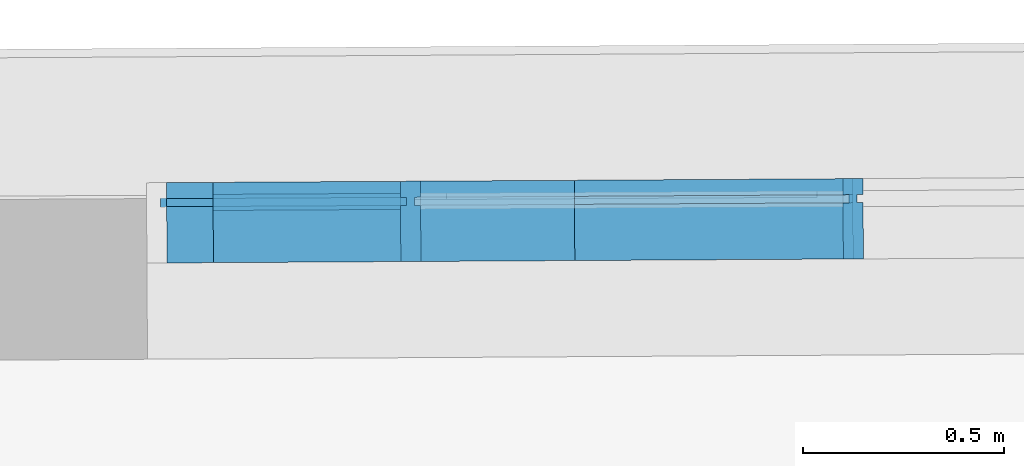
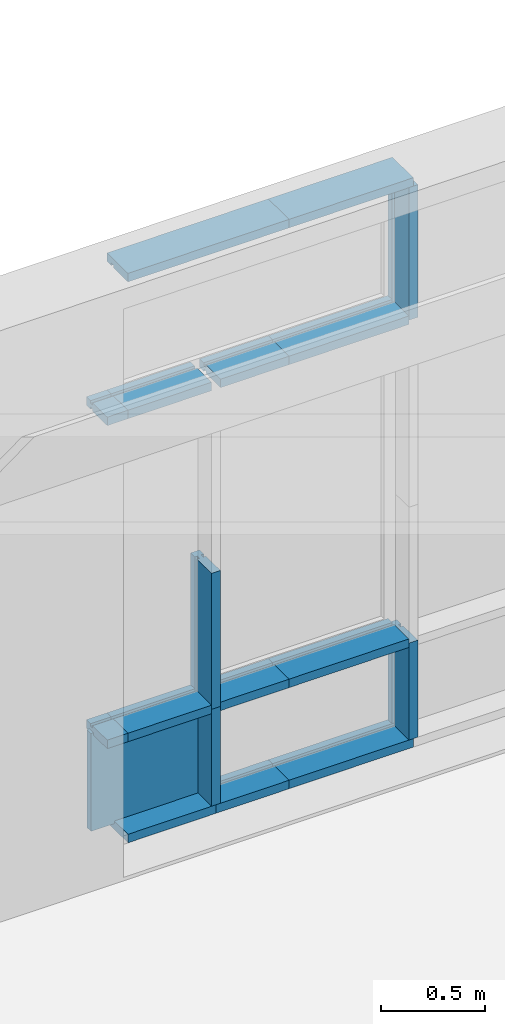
# One storey, part 127 of 158: 18 building element parts, 1 element without a shape of its own.
"""IFC2X3 building model written with IfcOpenShell, lengths in metres."""

from ifc_helpers import new_model, entity, si_unit, converted_unit, derived_unit, money_unit, direction, frame, origin_with_axes, place, context, subcontext, project, spatial, faceted_brep, material, type_object, element, aggregate, save


model = new_model("IFC2X3")

# Units and contexts
model_context = context("Model", 3, precision=1e-05, world=origin_with_axes(), true_north=direction((0.0, 1.0)))
body_context = subcontext(model_context, "Body", "Model", "MODEL_VIEW")
ifc_project = project(units=[si_unit("LENGTHUNIT", "METRE"), si_unit("AREAUNIT", "SQUARE_METRE"), si_unit("VOLUMEUNIT", "CUBIC_METRE"), converted_unit("PLANEANGLEUNIT", "DEGREE", entity("IfcPlaneAngleMeasure", 0.0174532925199), si_unit("PLANEANGLEUNIT", "RADIAN"), dimensions=[0, 0, 0, 0, 0, 0, 0]), money_unit("EUR"), converted_unit("TIMEUNIT", "Year", entity("IfcTimeMeasure", 31556926.0), si_unit("TIMEUNIT", "SECOND"), dimensions=[0, 0, 1, 0, 0, 0, 0]), si_unit("MASSUNIT", "GRAM", prefix="KILO"), si_unit("THERMODYNAMICTEMPERATUREUNIT", "DEGREE_CELSIUS"), si_unit("LUMINOUSINTENSITYUNIT", "LUMEN"), si_unit("ENERGYUNIT", "JOULE", prefix="MEGA"), derived_unit("THERMALCONDUCTANCEUNIT", [(si_unit("POWERUNIT", "WATT"), 1), (si_unit("LENGTHUNIT", "METRE"), -1), (si_unit("THERMODYNAMICTEMPERATUREUNIT", "KELVIN"), -1)]), derived_unit("SPECIFICHEATCAPACITYUNIT", [(si_unit("ENERGYUNIT", "JOULE"), 1), (si_unit("MASSUNIT", "GRAM", prefix="KILO"), -1), (si_unit("THERMODYNAMICTEMPERATUREUNIT", "KELVIN"), -1)]), derived_unit("MASSDENSITYUNIT", [(si_unit("MASSUNIT", "GRAM", prefix="KILO"), 1), (si_unit("VOLUMEUNIT", "CUBIC_METRE"), -1)])], contexts=[model_context])

# Site, building, storey
site_placement = place(None, origin_with_axes())
site = spatial("IfcSite", under=ifc_project, at=site_placement, Name="Gelände", CompositionType="ELEMENT")
building_placement = place(site_placement, origin_with_axes())
building = spatial("IfcBuilding", under=site, at=building_placement, Name="Gebäude", CompositionType="ELEMENT")
storey_placement = place(building_placement, origin_with_axes())
storey = spatial("IfcBuildingStorey", under=building, at=storey_placement, Name="ERDGESCHOSS", CompositionType="ELEMENT", Elevation=0.0)

# Proxy, building element parts
building_element_proxy_type = type_object("IfcBuildingElementProxyType", Name="Fassadentyp", PredefinedType="NOTDEFINED")
proxy_placement = place(storey_placement, frame((-29.8344261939, 53.9291673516, 1.34043902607), z_axis=(0.0, 0.0, 1.0), x_axis=(1.0, 0.0, 0.0)))
proxy = element("IfcBuildingElementProxy", 1, at=proxy_placement, inside=storey, type_object=building_element_proxy_type, Name="Fassade-002")
ifc_material_1 = material(Name="45_Glas, Normalglas")
building_element_part_1_placement = place(proxy_placement, origin_with_axes())
building_element_part_1 = element("IfcBuildingElementPart", 2, at=building_element_part_1_placement, material=ifc_material_1, Name="45_Glas, Normalglas", context=body_context, shape_type="Brep", body=[
    faceted_brep([(-0.702538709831, -0.0240973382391, 0.610000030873), (-0.571863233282, -0.0233352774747, 0.610000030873), (-0.572096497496, 0.0166640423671, 0.610000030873), (-0.702771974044, 0.0159019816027, 0.610000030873), (-0.702538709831, -0.0240973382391, 0.0349999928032), (-0.571863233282, -0.0233352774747, 0.0349999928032), (-0.09013150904, -0.0205259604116, 0.0349999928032), (-0.09013150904, -0.0205259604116, 0.610000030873), (-0.0903647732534, 0.0194733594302, 0.610000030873), (-0.0903647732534, 0.0194733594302, 0.0349999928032), (-0.572096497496, 0.0166640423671, 0.0349999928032), (-0.702771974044, 0.0159019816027, 0.0349999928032)], [[[0, 1, 2, 3]], [[0, 4, 5, 6, 7, 1]], [[1, 7, 8, 2]], [[3, 2, 8, 9, 10, 11]], [[4, 0, 3, 11]], [[5, 4, 11, 10]], [[6, 5, 10, 9]], [[7, 6, 9, 8]]]),
])
ifc_material_2 = material(Name="53_Metall, Aluminium")
building_element_part_2_placement = place(proxy_placement, origin_with_axes())
building_element_part_2 = element("IfcBuildingElementPart", 3, at=building_element_part_2_placement, material=ifc_material_2, Name="53_Metall, Aluminium", context=body_context, shape_type="Brep", body=[
    faceted_brep([(-0.68759727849, -0.0140100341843, 2.51000003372), (-0.68759727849, -0.0140100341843, 2.49500003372), (-0.686780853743, -0.154007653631, 2.49500003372), (-0.686780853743, -0.154007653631, 2.54500003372), (-0.68759727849, -0.0140100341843, 2.54500003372), (-0.68759727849, -0.0140100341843, 2.53000003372), (-0.687713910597, 0.00598962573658, 2.53000003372), (-0.687713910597, 0.00598962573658, 2.54500003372), (-0.687947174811, 0.0459889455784, 2.54500003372), (-0.687947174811, 0.0459889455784, 2.49500003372), (-0.687713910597, 0.00598962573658, 2.49500003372), (-0.687713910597, 0.00598962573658, 2.51000003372), (-0.571921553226, -0.013335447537, 2.51000003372), (-0.571921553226, -0.013335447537, 2.49500003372), (-0.571105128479, -0.153333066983, 2.49500003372), (-0.571105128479, -0.153333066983, 2.54500003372), (-0.571921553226, -0.013335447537, 2.54500003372), (-0.571921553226, -0.013335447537, 2.53000003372), (-0.572038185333, 0.00666421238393, 2.53000003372), (-0.572038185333, 0.00666421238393, 2.54500003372), (-0.572271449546, 0.0466635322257, 2.54500003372), (-0.572271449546, 0.0466635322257, 2.49500003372), (-0.572038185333, 0.00666421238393, 2.49500003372), (-0.572038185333, 0.00666421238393, 2.51000003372)], [[[0, 1, 2, 3, 4, 5, 6, 7, 8, 9, 10, 11]], [[1, 0, 12, 13]], [[1, 13, 14, 2]], [[3, 2, 14, 15]], [[4, 3, 15, 16]], [[4, 16, 17, 5]], [[5, 17, 18, 6]], [[7, 6, 18, 19]], [[19, 20, 8, 7]], [[9, 8, 20, 21]], [[22, 10, 9, 21]], [[11, 10, 22, 23]], [[0, 11, 23, 12]], [[23, 22, 21, 20, 19, 18, 17, 16, 15, 14, 13, 12]]]),
])
building_element_part_3_placement = place(proxy_placement, origin_with_axes())
building_element_part_3 = element("IfcBuildingElementPart", 4, at=building_element_part_3_placement, material=ifc_material_2, Name="53_Metall, Aluminium", context=body_context, shape_type="Brep", body=[
    faceted_brep([(-0.571921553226, -0.013335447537, 2.51000003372), (-0.571921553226, -0.013335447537, 2.49500003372), (-0.571105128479, -0.153333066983, 2.49500003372), (-0.571105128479, -0.153333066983, 2.54500003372), (-0.571921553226, -0.013335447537, 2.54500003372), (-0.571921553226, -0.013335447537, 2.53000003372), (-0.572038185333, 0.00666421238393, 2.53000003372), (-0.572038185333, 0.00666421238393, 2.54500003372), (-0.572271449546, 0.0466635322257, 2.54500003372), (-0.572271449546, 0.0466635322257, 2.49500003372), (-0.572038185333, 0.00666421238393, 2.49500003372), (-0.572038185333, 0.00666421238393, 2.51000003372), (-0.105189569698, -0.0106136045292, 2.51000003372), (-0.105189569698, -0.0106136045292, 2.49500003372), (-0.104373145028, -0.150611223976, 2.49500003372), (-0.104373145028, -0.150611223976, 2.54500003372), (-0.105189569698, -0.0106136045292, 2.54500003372), (-0.105189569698, -0.0106136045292, 2.53000003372), (-0.105306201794, 0.00938605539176, 2.53000003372), (-0.105306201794, 0.00938605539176, 2.54500003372), (-0.105539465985, 0.0493853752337, 2.54500003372), (-0.105539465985, 0.0493853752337, 2.49500003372), (-0.105306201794, 0.00938605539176, 2.49500003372), (-0.105306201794, 0.00938605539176, 2.51000003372)], [[[0, 1, 2, 3, 4, 5, 6, 7, 8, 9, 10, 11]], [[1, 0, 12, 13]], [[1, 13, 14, 2]], [[2, 14, 15, 3]], [[4, 3, 15, 16]], [[4, 16, 17, 5]], [[5, 17, 18, 6]], [[7, 6, 18, 19]], [[19, 20, 8, 7]], [[8, 20, 21, 9]], [[22, 10, 9, 21]], [[11, 10, 22, 23]], [[0, 11, 23, 12]], [[23, 22, 21, 20, 19, 18, 17, 16, 15, 14, 13, 12]]]),
])
building_element_part_4_placement = place(proxy_placement, origin_with_axes())
building_element_part_4 = element("IfcBuildingElementPart", 5, at=building_element_part_4_placement, material=ifc_material_2, Name="53_Metall, Aluminium", context=body_context, shape_type="Brep", body=[
    faceted_brep([(-0.571921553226, -0.013335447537, 0.0349999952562), (-0.572038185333, 0.00666421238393, 0.0349999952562), (-0.572038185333, 0.00666421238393, 0.0499999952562), (-0.572271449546, 0.0466635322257, 0.0499999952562), (-0.572271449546, 0.0466635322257, -4.74376693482e-09), (-0.571105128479, -0.153333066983, -4.74376693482e-09), (-0.571105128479, -0.153333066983, 0.0499999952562), (-0.571921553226, -0.013335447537, 0.0499999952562), (-0.0801899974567, -0.0104678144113, 0.0349999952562), (-0.0803066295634, 0.00953184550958, 0.0349999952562), (-0.0803066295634, 0.00953184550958, 0.0499999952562), (-0.0805398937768, 0.0495311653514, 0.0499999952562), (-0.0805398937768, 0.0495311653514, -4.74376693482e-09), (-0.0793735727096, -0.150465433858, -4.74376693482e-09), (-0.0793735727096, -0.150465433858, 0.0499999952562), (-0.0801899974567, -0.0104678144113, 0.0499999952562)], [[[0, 1, 2, 3, 4, 5, 6, 7]], [[1, 0, 8, 9]], [[10, 2, 1, 9]], [[2, 10, 11, 3]], [[12, 4, 3, 11]], [[13, 5, 4, 12]], [[14, 6, 5, 13]], [[15, 7, 6, 14]], [[0, 7, 15, 8]], [[8, 15, 14, 13, 12, 11, 10, 9]]]),
])
building_element_part_5_placement = place(proxy_placement, origin_with_axes())
building_element_part_5 = element("IfcBuildingElementPart", 6, at=building_element_part_5_placement, material=ifc_material_2, Name="53_Metall, Aluminium", context=body_context, shape_type="Brep", body=[
    faceted_brep([(-0.0801899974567, -0.0104678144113, 0.0349999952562), (-0.0803066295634, 0.00953184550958, 0.0349999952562), (-0.0803066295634, 0.00953184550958, 0.0499999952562), (-0.0805398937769, 0.0495311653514, 0.0499999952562), (-0.0805398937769, 0.0495311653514, -4.74376693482e-09), (-0.0793735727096, -0.150465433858, -4.74376693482e-09), (-0.0793735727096, -0.150465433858, 0.0499999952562), (-0.0801899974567, -0.0104678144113, 0.0499999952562), (0.328063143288, -0.00808700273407, 0.0349999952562), (0.327946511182, 0.0119126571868, 0.0349999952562), (0.327946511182, 0.0119126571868, 0.0499999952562), (0.327713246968, 0.0519119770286, 0.0499999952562), (0.327713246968, 0.0519119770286, -4.74376693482e-09), (0.328879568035, -0.14808462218, -4.74376693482e-09), (0.328879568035, -0.14808462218, 0.0499999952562), (0.328063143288, -0.00808700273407, 0.0499999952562)], [[[0, 1, 2, 3, 4, 5, 6, 7]], [[1, 0, 8, 9]], [[10, 2, 1, 9]], [[2, 10, 11, 3]], [[12, 4, 3, 11]], [[13, 5, 4, 12]], [[14, 6, 5, 13]], [[15, 7, 6, 14]], [[0, 7, 15, 8]], [[8, 15, 14, 13, 12, 11, 10, 9]]]),
])
building_element_part_6_placement = place(proxy_placement, origin_with_axes())
building_element_part_6 = element("IfcBuildingElementPart", 7, at=building_element_part_6_placement, material=ifc_material_2, Name="53_Metall, Aluminium", context=body_context, shape_type="Brep", body=[
    faceted_brep([(0.328063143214, -0.0080870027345, 0.610000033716), (0.328063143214, -0.0080870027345, 0.595000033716), (0.328879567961, -0.148084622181, 0.595000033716), (0.328879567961, -0.148084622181, 0.645000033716), (0.328063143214, -0.0080870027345, 0.645000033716), (0.328063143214, -0.0080870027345, 0.630000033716), (0.327946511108, 0.0119126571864, 0.630000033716), (0.327946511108, 0.0119126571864, 0.645000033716), (0.327713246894, 0.0519119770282, 0.645000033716), (0.327713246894, 0.0519119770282, 0.595000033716), (0.327946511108, 0.0119126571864, 0.595000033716), (0.327946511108, 0.0119126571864, 0.610000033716), (0.996812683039, -0.00418705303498, 0.610000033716), (0.996812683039, -0.00418705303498, 0.595000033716), (0.997629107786, -0.144184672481, 0.595000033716), (0.997629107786, -0.144184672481, 0.645000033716), (0.996812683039, -0.00418705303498, 0.645000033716), (0.996812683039, -0.00418705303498, 0.630000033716), (0.996696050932, 0.0158126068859, 0.630000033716), (0.996696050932, 0.0158126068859, 0.645000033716), (0.996462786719, 0.0558119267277, 0.645000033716), (0.996462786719, 0.0558119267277, 0.595000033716), (0.996696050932, 0.0158126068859, 0.595000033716), (0.996696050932, 0.0158126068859, 0.610000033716)], [[[0, 1, 2, 3, 4, 5, 6, 7, 8, 9, 10, 11]], [[1, 0, 12, 13]], [[1, 13, 14, 2]], [[2, 14, 15, 3]], [[4, 3, 15, 16]], [[4, 16, 17, 5]], [[5, 17, 18, 6]], [[7, 6, 18, 19]], [[19, 20, 8, 7]], [[8, 20, 21, 9]], [[22, 10, 9, 21]], [[11, 10, 22, 23]], [[0, 11, 23, 12]], [[23, 22, 21, 20, 19, 18, 17, 16, 15, 14, 13, 12]]]),
])
building_element_part_7_placement = place(proxy_placement, origin_with_axes())
building_element_part_7 = element("IfcBuildingElementPart", 8, at=building_element_part_7_placement, material=ifc_material_2, Name="53_Metall, Aluminium", context=body_context, shape_type="Brep", body=[
    faceted_brep([(-0.571921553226, -0.013335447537, 3.31499994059), (-0.571921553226, -0.013335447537, 3.29999994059), (-0.571105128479, -0.153333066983, 3.29999994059), (-0.571105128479, -0.153333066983, 3.34999994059), (-0.572271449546, 0.0466635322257, 3.34999994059), (-0.572271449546, 0.0466635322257, 3.29999994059), (-0.572038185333, 0.00666421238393, 3.29999994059), (-0.572038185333, 0.00666421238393, 3.31499994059), (0.328063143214, -0.0080870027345, 3.31499994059), (0.328063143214, -0.0080870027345, 3.29999994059), (0.328879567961, -0.148084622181, 3.29999994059), (0.328879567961, -0.148084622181, 3.34999994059), (0.327713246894, 0.0519119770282, 3.34999994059), (0.327713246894, 0.0519119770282, 3.29999994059), (0.327946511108, 0.0119126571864, 3.29999994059), (0.327946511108, 0.0119126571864, 3.31499994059)], [[[0, 1, 2, 3, 4, 5, 6, 7]], [[0, 8, 9, 1]], [[9, 10, 2, 1]], [[10, 11, 3, 2]], [[11, 12, 4, 3]], [[12, 13, 5, 4]], [[6, 5, 13, 14]], [[14, 15, 7, 6]], [[7, 15, 8, 0]], [[8, 15, 14, 13, 12, 11, 10, 9]]]),
])
building_element_part_8_placement = place(proxy_placement, origin_with_axes())
building_element_part_8 = element("IfcBuildingElementPart", 9, at=building_element_part_8_placement, material=ifc_material_2, Name="53_Metall, Aluminium", context=body_context, shape_type="Brep", body=[
    faceted_brep([(-0.571921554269, -0.013335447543, 0.610000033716), (-0.571921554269, -0.013335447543, 0.595000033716), (-0.571105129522, -0.153333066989, 0.595000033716), (-0.571105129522, -0.153333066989, 0.645000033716), (-0.571921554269, -0.013335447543, 0.645000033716), (-0.571921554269, -0.013335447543, 0.630000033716), (-0.572038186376, 0.00666421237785, 0.630000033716), (-0.572038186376, 0.00666421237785, 0.645000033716), (-0.572271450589, 0.0466635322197, 0.645000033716), (-0.572271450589, 0.0466635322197, 0.595000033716), (-0.572038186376, 0.00666421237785, 0.595000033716), (-0.572038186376, 0.00666421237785, 0.610000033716), (-0.10518957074, -0.0106136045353, 0.610000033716), (-0.10518957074, -0.0106136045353, 0.595000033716), (-0.10437314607, -0.150611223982, 0.595000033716), (-0.10437314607, -0.150611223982, 0.645000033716), (-0.10518957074, -0.0106136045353, 0.645000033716), (-0.10518957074, -0.0106136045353, 0.630000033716), (-0.105306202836, 0.00938605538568, 0.630000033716), (-0.105306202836, 0.00938605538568, 0.645000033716), (-0.105539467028, 0.0493853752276, 0.645000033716), (-0.105539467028, 0.0493853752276, 0.595000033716), (-0.105306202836, 0.00938605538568, 0.595000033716), (-0.105306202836, 0.00938605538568, 0.610000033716)], [[[0, 1, 2, 3, 4, 5, 6, 7, 8, 9, 10, 11]], [[1, 0, 12, 13]], [[1, 13, 14, 2]], [[2, 14, 15, 3]], [[4, 3, 15, 16]], [[4, 16, 17, 5]], [[5, 17, 18, 6]], [[7, 6, 18, 19]], [[19, 20, 8, 7]], [[8, 20, 21, 9]], [[22, 10, 9, 21]], [[11, 10, 22, 23]], [[0, 11, 23, 12]], [[23, 22, 21, 20, 19, 18, 17, 16, 15, 14, 13, 12]]]),
])
building_element_part_9_placement = place(proxy_placement, origin_with_axes())
building_element_part_9 = element("IfcBuildingElementPart", 10, at=building_element_part_9_placement, material=ifc_material_2, Name="53_Metall, Aluminium", context=body_context, shape_type="Brep", body=[
    faceted_brep([(-0.0901898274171, -0.0105261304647, 0.620000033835), (-0.105189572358, -0.0106136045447, 0.620000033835), (-0.104373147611, -0.150611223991, 0.620000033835), (-0.0543739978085, -0.150319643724, 0.620000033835), (-0.0551904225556, -0.0103220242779, 0.620000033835), (-0.0701901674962, -0.010409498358, 0.620000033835), (-0.070306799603, 0.00959016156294, 0.620000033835), (-0.0553070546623, 0.00967763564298, 0.620000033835), (-0.0555403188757, 0.0496769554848, 0.620000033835), (-0.105539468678, 0.049385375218, 0.620000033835), (-0.105306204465, 0.00938605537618, 0.620000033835), (-0.0903064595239, 0.00947352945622, 0.620000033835), (-0.0901898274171, -0.0105261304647, 0.0499999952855), (-0.105189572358, -0.0106136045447, 0.0499999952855), (-0.104373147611, -0.150611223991, 0.0499999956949), (-0.0543739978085, -0.150319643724, 0.0499999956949), (-0.0551904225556, -0.0103220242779, 0.0499999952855), (-0.0701901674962, -0.010409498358, 0.0499999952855), (-0.070306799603, 0.00959016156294, 0.049999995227), (-0.0553070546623, 0.00967763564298, 0.049999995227), (-0.0555403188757, 0.0496769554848, 0.04999999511), (-0.105539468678, 0.049385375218, 0.04999999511), (-0.105306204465, 0.00938605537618, 0.049999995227), (-0.0903064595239, 0.00947352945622, 0.049999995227)], [[[0, 1, 2, 3, 4, 5, 6, 7, 8, 9, 10, 11]], [[1, 0, 12, 13]], [[1, 13, 14, 2]], [[2, 14, 15, 3]], [[4, 3, 15, 16]], [[4, 16, 17, 5]], [[5, 17, 18, 6]], [[7, 6, 18, 19]], [[19, 20, 8, 7]], [[8, 20, 21, 9]], [[22, 10, 9, 21]], [[11, 10, 22, 23]], [[0, 11, 23, 12]], [[23, 22, 21, 20, 19, 18, 17, 16, 15, 14, 13, 12]]]),
])
building_element_part_10_placement = place(proxy_placement, origin_with_axes())
building_element_part_10 = element("IfcBuildingElementPart", 11, at=building_element_part_10_placement, material=ifc_material_2, Name="53_Metall, Aluminium", context=body_context, shape_type="Brep", body=[
    faceted_brep([(-0.68759727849, -0.0140100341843, 0.610000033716), (-0.68759727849, -0.0140100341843, 0.595000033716), (-0.686780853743, -0.154007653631, 0.595000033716), (-0.686780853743, -0.154007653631, 0.645000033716), (-0.68759727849, -0.0140100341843, 0.645000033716), (-0.68759727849, -0.0140100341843, 0.630000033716), (-0.687713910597, 0.00598962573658, 0.630000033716), (-0.687713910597, 0.00598962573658, 0.645000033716), (-0.687947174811, 0.0459889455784, 0.645000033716), (-0.687947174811, 0.0459889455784, 0.595000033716), (-0.687713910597, 0.00598962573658, 0.595000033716), (-0.687713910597, 0.00598962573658, 0.610000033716), (-0.571921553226, -0.013335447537, 0.610000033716), (-0.571921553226, -0.013335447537, 0.595000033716), (-0.571105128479, -0.153333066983, 0.595000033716), (-0.571105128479, -0.153333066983, 0.645000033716), (-0.571921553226, -0.013335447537, 0.645000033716), (-0.571921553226, -0.013335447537, 0.630000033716), (-0.572038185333, 0.00666421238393, 0.630000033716), (-0.572038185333, 0.00666421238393, 0.645000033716), (-0.572271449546, 0.0466635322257, 0.645000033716), (-0.572271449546, 0.0466635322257, 0.595000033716), (-0.572038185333, 0.00666421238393, 0.595000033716), (-0.572038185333, 0.00666421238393, 0.610000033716)], [[[0, 1, 2, 3, 4, 5, 6, 7, 8, 9, 10, 11]], [[1, 0, 12, 13]], [[1, 13, 14, 2]], [[3, 2, 14, 15]], [[4, 3, 15, 16]], [[4, 16, 17, 5]], [[5, 17, 18, 6]], [[7, 6, 18, 19]], [[19, 20, 8, 7]], [[9, 8, 20, 21]], [[22, 10, 9, 21]], [[11, 10, 22, 23]], [[0, 11, 23, 12]], [[23, 22, 21, 20, 19, 18, 17, 16, 15, 14, 13, 12]]]),
])
building_element_part_11_placement = place(proxy_placement, origin_with_axes())
building_element_part_11 = element("IfcBuildingElementPart", 12, at=building_element_part_11_placement, material=ifc_material_2, Name="53_Metall, Aluminium", context=body_context, shape_type="Brep", body=[
    faceted_brep([(-0.0901898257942, -0.0105261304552, 1.42000003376), (-0.105189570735, -0.0106136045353, 1.42000003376), (-0.104373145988, -0.150611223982, 1.42000003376), (-0.0543739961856, -0.150319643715, 1.42000003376), (-0.0551904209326, -0.0103220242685, 1.42000003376), (-0.0701901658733, -0.0104094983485, 1.42000003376), (-0.07030679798, 0.0095901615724, 1.42000003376), (-0.0553070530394, 0.00967763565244, 1.42000003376), (-0.0555403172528, 0.0496769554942, 1.42000003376), (-0.105539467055, 0.0493853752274, 1.42000003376), (-0.105306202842, 0.00938605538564, 1.42000003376), (-0.0903064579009, 0.00947352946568, 1.42000003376), (-0.0901898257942, -0.0105261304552, 0.620000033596), (-0.105189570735, -0.0106136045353, 0.620000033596), (-0.104373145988, -0.150611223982, 0.620000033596), (-0.0543739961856, -0.150319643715, 0.620000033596), (-0.0551904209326, -0.0103220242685, 0.620000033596), (-0.0701901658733, -0.0104094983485, 0.620000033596), (-0.07030679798, 0.0095901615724, 0.620000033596), (-0.0553070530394, 0.00967763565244, 0.620000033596), (-0.0555403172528, 0.0496769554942, 0.620000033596), (-0.105539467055, 0.0493853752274, 0.620000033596), (-0.105306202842, 0.00938605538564, 0.620000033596), (-0.0903064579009, 0.00947352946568, 0.620000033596)], [[[0, 1, 2, 3, 4, 5, 6, 7, 8, 9, 10, 11]], [[1, 0, 12, 13]], [[1, 13, 14, 2]], [[3, 2, 14, 15]], [[4, 3, 15, 16]], [[4, 16, 17, 5]], [[5, 17, 18, 6]], [[7, 6, 18, 19]], [[19, 20, 8, 7]], [[9, 8, 20, 21]], [[22, 10, 9, 21]], [[11, 10, 22, 23]], [[0, 11, 23, 12]], [[23, 22, 21, 20, 19, 18, 17, 16, 15, 14, 13, 12]]]),
])
building_element_part_12_placement = place(proxy_placement, origin_with_axes())
building_element_part_12 = element("IfcBuildingElementPart", 13, at=building_element_part_12_placement, material=ifc_material_2, Name="53_Metall, Aluminium", context=body_context, shape_type="Brep", body=[
    faceted_brep([(-0.0551904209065, -0.0103220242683, 0.610000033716), (-0.0551904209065, -0.0103220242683, 0.595000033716), (-0.0543739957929, -0.150319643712, 0.595000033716), (-0.0543739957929, -0.150319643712, 0.645000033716), (-0.0551904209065, -0.0103220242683, 0.645000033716), (-0.0551904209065, -0.0103220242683, 0.630000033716), (-0.0553070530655, 0.0096776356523, 0.630000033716), (-0.0553070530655, 0.0096776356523, 0.645000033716), (-0.0555403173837, 0.0496769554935, 0.645000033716), (-0.0555403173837, 0.0496769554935, 0.595000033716), (-0.0553070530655, 0.0096776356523, 0.595000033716), (-0.0553070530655, 0.0096776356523, 0.610000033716), (0.328063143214, -0.0080870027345, 0.610000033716), (0.328063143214, -0.0080870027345, 0.595000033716), (0.328879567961, -0.148084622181, 0.595000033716), (0.328879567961, -0.148084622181, 0.645000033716), (0.328063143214, -0.0080870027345, 0.645000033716), (0.328063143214, -0.0080870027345, 0.630000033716), (0.327946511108, 0.0119126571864, 0.630000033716), (0.327946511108, 0.0119126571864, 0.645000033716), (0.327713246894, 0.0519119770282, 0.645000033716), (0.327713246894, 0.0519119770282, 0.595000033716), (0.327946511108, 0.0119126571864, 0.595000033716), (0.327946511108, 0.0119126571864, 0.610000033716)], [[[0, 1, 2, 3, 4, 5, 6, 7, 8, 9, 10, 11]], [[1, 0, 12, 13]], [[1, 13, 14, 2]], [[3, 2, 14, 15]], [[4, 3, 15, 16]], [[4, 16, 17, 5]], [[5, 17, 18, 6]], [[7, 6, 18, 19]], [[19, 20, 8, 7]], [[9, 8, 20, 21]], [[22, 10, 9, 21]], [[11, 10, 22, 23]], [[0, 11, 23, 12]], [[23, 22, 21, 20, 19, 18, 17, 16, 15, 14, 13, 12]]]),
])
building_element_part_13_placement = place(proxy_placement, origin_with_axes())
building_element_part_13 = element("IfcBuildingElementPart", 14, at=building_element_part_13_placement, material=ifc_material_2, Name="53_Metall, Aluminium", context=body_context, shape_type="Brep", body=[
    faceted_brep([(-0.0551904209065, -0.0103220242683, 2.51000003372), (-0.0551904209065, -0.0103220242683, 2.49500003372), (-0.0543739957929, -0.150319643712, 2.49500003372), (-0.0543739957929, -0.150319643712, 2.54500003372), (-0.0551904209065, -0.0103220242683, 2.54500003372), (-0.0551904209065, -0.0103220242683, 2.53000003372), (-0.0553070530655, 0.0096776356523, 2.53000003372), (-0.0553070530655, 0.0096776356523, 2.54500003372), (-0.0555403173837, 0.0496769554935, 2.54500003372), (-0.0555403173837, 0.0496769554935, 2.49500003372), (-0.0553070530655, 0.0096776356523, 2.49500003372), (-0.0553070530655, 0.0096776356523, 2.51000003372), (0.328063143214, -0.0080870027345, 2.51000003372), (0.328063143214, -0.0080870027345, 2.49500003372), (0.328879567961, -0.148084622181, 2.49500003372), (0.328879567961, -0.148084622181, 2.54500003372), (0.328063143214, -0.0080870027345, 2.54500003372), (0.328063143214, -0.0080870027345, 2.53000003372), (0.327946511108, 0.0119126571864, 2.53000003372), (0.327946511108, 0.0119126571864, 2.54500003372), (0.327713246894, 0.0519119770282, 2.54500003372), (0.327713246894, 0.0519119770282, 2.49500003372), (0.327946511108, 0.0119126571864, 2.49500003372), (0.327946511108, 0.0119126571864, 2.51000003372)], [[[0, 1, 2, 3, 4, 5, 6, 7, 8, 9, 10, 11]], [[1, 0, 12, 13]], [[1, 13, 14, 2]], [[3, 2, 14, 15]], [[4, 3, 15, 16]], [[4, 16, 17, 5]], [[5, 17, 18, 6]], [[7, 6, 18, 19]], [[19, 20, 8, 7]], [[9, 8, 20, 21]], [[22, 10, 9, 21]], [[11, 10, 22, 23]], [[0, 11, 23, 12]], [[23, 22, 21, 20, 19, 18, 17, 16, 15, 14, 13, 12]]]),
])
building_element_part_14_placement = place(proxy_placement, origin_with_axes())
building_element_part_14 = element("IfcBuildingElementPart", 15, at=building_element_part_14_placement, material=ifc_material_2, Name="53_Metall, Aluminium", context=body_context, shape_type="Brep", body=[
    faceted_brep([(1.01181242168, -0.00409957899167, 0.620000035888), (0.996812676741, -0.00418705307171, 0.620000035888), (0.997629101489, -0.144184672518, 0.620000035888), (1.04762825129, -0.143893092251, 0.620000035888), (1.04681182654, -0.00389547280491, 0.620000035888), (1.0318120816, -0.00398294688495, 0.620000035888), (1.0316954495, 0.016016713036, 0.620000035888), (1.04669519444, 0.016104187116, 0.620000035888), (1.04646193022, 0.0561035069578, 0.620000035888), (0.996462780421, 0.055811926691, 0.620000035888), (0.996696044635, 0.0158126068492, 0.620000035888), (1.01169578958, 0.0159000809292, 0.620000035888), (1.01181242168, -0.00409957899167, 0.0499999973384), (0.996812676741, -0.00418705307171, 0.0499999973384), (0.997629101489, -0.144184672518, 0.0499999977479), (1.04762825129, -0.143893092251, 0.0499999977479), (1.04681182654, -0.00389547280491, 0.0499999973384), (1.0318120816, -0.00398294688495, 0.0499999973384), (1.0316954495, 0.016016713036, 0.04999999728), (1.04669519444, 0.016104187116, 0.04999999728), (1.04646193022, 0.0561035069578, 0.049999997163), (0.996462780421, 0.055811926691, 0.049999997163), (0.996696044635, 0.0158126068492, 0.04999999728), (1.01169578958, 0.0159000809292, 0.04999999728)], [[[0, 1, 2, 3, 4, 5, 6, 7, 8, 9, 10, 11]], [[1, 0, 12, 13]], [[1, 13, 14, 2]], [[2, 14, 15, 3]], [[4, 3, 15, 16]], [[4, 16, 17, 5]], [[5, 17, 18, 6]], [[7, 6, 18, 19]], [[19, 20, 8, 7]], [[8, 20, 21, 9]], [[22, 10, 9, 21]], [[11, 10, 22, 23]], [[0, 11, 23, 12]], [[23, 22, 21, 20, 19, 18, 17, 16, 15, 14, 13, 12]]]),
])
building_element_part_15_placement = place(proxy_placement, origin_with_axes())
building_element_part_15 = element("IfcBuildingElementPart", 16, at=building_element_part_15_placement, material=ifc_material_2, Name="53_Metall, Aluminium", context=body_context, shape_type="Brep", body=[
    faceted_brep([(0.32806314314, -0.00808700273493, 0.0349999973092), (0.327946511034, 0.011912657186, 0.0349999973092), (0.327946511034, 0.011912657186, 0.0499999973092), (0.32771324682, 0.0519119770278, 0.0499999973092), (0.32771324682, 0.0519119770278, -2.69079825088e-09), (0.328879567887, -0.148084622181, -2.69079825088e-09), (0.328879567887, -0.148084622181, 0.0499999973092), (0.32806314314, -0.00808700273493, 0.0499999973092), (1.02181225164, -0.00404126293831, 0.0349999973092), (1.02169561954, 0.0159583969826, 0.0349999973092), (1.02169561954, 0.0159583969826, 0.0499999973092), (1.02146235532, 0.0559577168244, 0.0499999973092), (1.02146235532, 0.0559577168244, -2.69079825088e-09), (1.02262867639, -0.144038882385, -2.69079825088e-09), (1.02262867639, -0.144038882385, 0.0499999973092), (1.02181225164, -0.00404126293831, 0.0499999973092)], [[[0, 1, 2, 3, 4, 5, 6, 7]], [[1, 0, 8, 9]], [[10, 2, 1, 9]], [[2, 10, 11, 3]], [[12, 4, 3, 11]], [[13, 5, 4, 12]], [[14, 6, 5, 13]], [[15, 7, 6, 14]], [[0, 7, 15, 8]], [[8, 15, 14, 13, 12, 11, 10, 9]]]),
])
building_element_part_16_placement = place(proxy_placement, origin_with_axes())
building_element_part_16 = element("IfcBuildingElementPart", 17, at=building_element_part_16_placement, material=ifc_material_2, Name="53_Metall, Aluminium", context=body_context, shape_type="Brep", body=[
    faceted_brep([(0.328063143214, -0.0080870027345, 3.31499994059), (0.328063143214, -0.0080870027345, 3.29999994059), (0.328879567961, -0.148084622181, 3.29999994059), (0.328879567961, -0.148084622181, 3.34999994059), (0.327713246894, 0.0519119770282, 3.34999994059), (0.327713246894, 0.0519119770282, 3.29999994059), (0.327946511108, 0.0119126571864, 3.29999994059), (0.327946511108, 0.0119126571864, 3.31499994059), (1.02181225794, -0.00404126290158, 3.31499994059), (1.02181225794, -0.00404126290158, 3.29999994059), (1.02262868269, -0.144038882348, 3.29999994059), (1.02262868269, -0.144038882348, 3.34999994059), (1.02146236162, 0.0559577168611, 3.34999994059), (1.02146236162, 0.0559577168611, 3.29999994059), (1.02169562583, 0.0159583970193, 3.29999994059), (1.02169562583, 0.0159583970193, 3.31499994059)], [[[0, 1, 2, 3, 4, 5, 6, 7]], [[0, 8, 9, 1]], [[9, 10, 2, 1]], [[10, 11, 3, 2]], [[11, 12, 4, 3]], [[12, 13, 5, 4]], [[6, 5, 13, 14]], [[14, 15, 7, 6]], [[7, 15, 8, 0]], [[8, 15, 14, 13, 12, 11, 10, 9]]]),
])
building_element_part_17_placement = place(proxy_placement, origin_with_axes())
building_element_part_17 = element("IfcBuildingElementPart", 18, at=building_element_part_17_placement, material=ifc_material_2, Name="53_Metall, Aluminium", context=body_context, shape_type="Brep", body=[
    faceted_brep([(0.328063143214, -0.0080870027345, 2.51000003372), (0.328063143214, -0.0080870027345, 2.49500003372), (0.328879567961, -0.148084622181, 2.49500003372), (0.328879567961, -0.148084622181, 2.54500003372), (0.328063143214, -0.0080870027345, 2.54500003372), (0.328063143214, -0.0080870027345, 2.53000003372), (0.327946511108, 0.0119126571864, 2.53000003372), (0.327946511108, 0.0119126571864, 2.54500003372), (0.327713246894, 0.0519119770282, 2.54500003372), (0.327713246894, 0.0519119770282, 2.49500003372), (0.327946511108, 0.0119126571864, 2.49500003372), (0.327946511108, 0.0119126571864, 2.51000003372), (0.996812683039, -0.00418705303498, 2.51000003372), (0.996812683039, -0.00418705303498, 2.49500003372), (0.997629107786, -0.144184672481, 2.49500003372), (0.997629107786, -0.144184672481, 2.54500003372), (0.996812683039, -0.00418705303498, 2.54500003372), (0.996812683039, -0.00418705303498, 2.53000003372), (0.996696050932, 0.0158126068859, 2.53000003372), (0.996696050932, 0.0158126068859, 2.54500003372), (0.996462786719, 0.0558119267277, 2.54500003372), (0.996462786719, 0.0558119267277, 2.49500003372), (0.996696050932, 0.0158126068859, 2.49500003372), (0.996696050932, 0.0158126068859, 2.51000003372)], [[[0, 1, 2, 3, 4, 5, 6, 7, 8, 9, 10, 11]], [[1, 0, 12, 13]], [[1, 13, 14, 2]], [[2, 14, 15, 3]], [[4, 3, 15, 16]], [[4, 16, 17, 5]], [[5, 17, 18, 6]], [[7, 6, 18, 19]], [[19, 20, 8, 7]], [[8, 20, 21, 9]], [[22, 10, 9, 21]], [[11, 10, 22, 23]], [[0, 11, 23, 12]], [[23, 22, 21, 20, 19, 18, 17, 16, 15, 14, 13, 12]]]),
])
building_element_part_18_placement = place(proxy_placement, origin_with_axes())
building_element_part_18 = element("IfcBuildingElementPart", 19, at=building_element_part_18_placement, material=ifc_material_2, Name="53_Metall, Aluminium", context=body_context, shape_type="Brep", body=[
    faceted_brep([(1.01181242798, -0.00409957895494, 3.29999994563), (0.996812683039, -0.00418705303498, 3.29999994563), (0.997629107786, -0.144184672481, 3.29999994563), (1.04762825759, -0.143893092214, 3.29999994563), (1.04681183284, -0.00389547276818, 3.29999994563), (1.0318120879, -0.00398294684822, 3.29999994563), (1.03169545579, 0.0160167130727, 3.29999994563), (1.04669520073, 0.0161041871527, 3.29999994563), (1.04646193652, 0.0561035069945, 3.29999994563), (0.996462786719, 0.0558119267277, 3.29999994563), (0.996696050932, 0.0158126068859, 3.29999994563), (1.01169579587, 0.015900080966, 3.29999994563), (1.01181242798, -0.00409957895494, 2.52000003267), (0.996812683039, -0.00418705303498, 2.52000003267), (0.997629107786, -0.144184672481, 2.52000003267), (1.04762825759, -0.143893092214, 2.52000003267), (1.04681183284, -0.00389547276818, 2.52000003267), (1.0318120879, -0.00398294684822, 2.52000003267), (1.03169545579, 0.0160167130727, 2.52000003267), (1.04669520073, 0.0161041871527, 2.52000003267), (1.04646193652, 0.0561035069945, 2.52000003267), (0.996462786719, 0.0558119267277, 2.52000003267), (0.996696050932, 0.0158126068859, 2.52000003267), (1.01169579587, 0.015900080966, 2.52000003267)], [[[0, 1, 2, 3, 4, 5, 6, 7, 8, 9, 10, 11]], [[1, 0, 12, 13]], [[1, 13, 14, 2]], [[3, 2, 14, 15]], [[4, 3, 15, 16]], [[4, 16, 17, 5]], [[5, 17, 18, 6]], [[7, 6, 18, 19]], [[19, 20, 8, 7]], [[9, 8, 20, 21]], [[22, 10, 9, 21]], [[11, 10, 22, 23]], [[0, 11, 23, 12]], [[23, 22, 21, 20, 19, 18, 17, 16, 15, 14, 13, 12]]]),
])
aggregate(proxy, [building_element_part_1, building_element_part_2, building_element_part_3, building_element_part_4, building_element_part_5, building_element_part_6, building_element_part_7, building_element_part_8, building_element_part_9, building_element_part_10, building_element_part_11, building_element_part_12, building_element_part_13, building_element_part_14, building_element_part_15, building_element_part_16, building_element_part_17, building_element_part_18])

save(model, "model.ifc")
